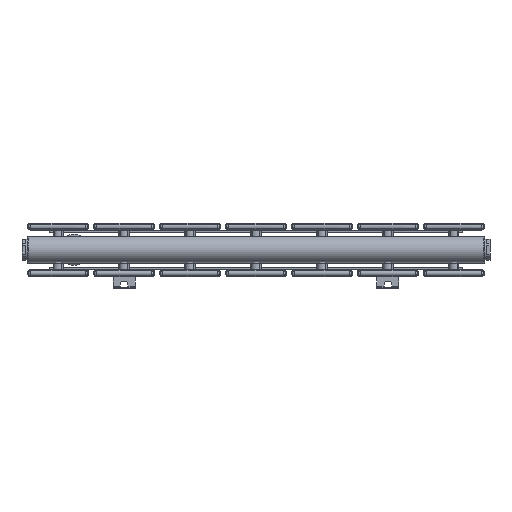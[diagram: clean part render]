
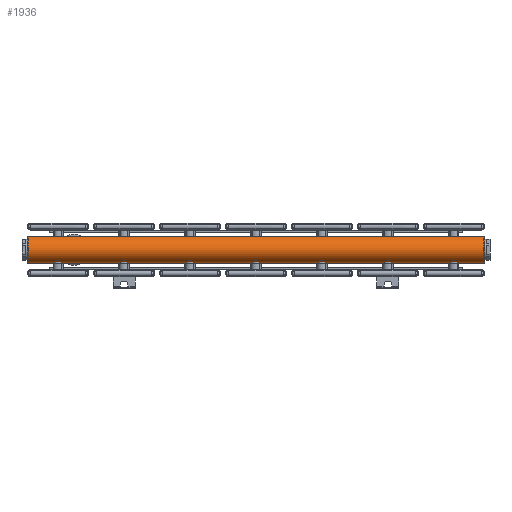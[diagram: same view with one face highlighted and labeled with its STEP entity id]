
A CAD part, left-side view. The second image highlights one B-rep face of the part: STEP entity #1936.
In plain terms, the highlighted cylindrical face has radius 15 mm (diameter 30 mm), a full revolution.
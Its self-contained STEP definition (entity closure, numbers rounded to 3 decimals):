
#642=FACE_BOUND('',#865,.T.);
#737=FACE_OUTER_BOUND('',#864,.T.);
#864=EDGE_LOOP('',(#1720));
#865=EDGE_LOOP('',(#1721));
#968=CIRCLE('',#2177,15.);
#969=CIRCLE('',#2179,15.);
#1106=VERTEX_POINT('',#3696);
#1107=VERTEX_POINT('',#3699);
#1320=EDGE_CURVE('',#1106,#1106,#968,.T.);
#1321=EDGE_CURVE('',#1107,#1107,#969,.T.);
#1720=ORIENTED_EDGE('',*,*,#1320,.F.);
#1721=ORIENTED_EDGE('',*,*,#1321,.F.);
#1851=CYLINDRICAL_SURFACE('',#2180,15.);
#1936=ADVANCED_FACE('',(#737,#642),#1851,.T.);
#2177=AXIS2_PLACEMENT_3D('',#3697,#2684,#2685);
#2179=AXIS2_PLACEMENT_3D('',#3700,#2688,#2689);
#2180=AXIS2_PLACEMENT_3D('',#3701,#2690,#2691);
#2684=DIRECTION('center_axis',(0.,0.,1.));
#2685=DIRECTION('ref_axis',(-1.,0.,0.));
#2688=DIRECTION('center_axis',(0.,0.,-1.));
#2689=DIRECTION('ref_axis',(-1.,0.,0.));
#2690=DIRECTION('center_axis',(0.,0.,1.));
#2691=DIRECTION('ref_axis',(-1.,0.,0.));
#3696=CARTESIAN_POINT('',(15.,-15.,520.));
#3697=CARTESIAN_POINT('Origin',(0.,-15.,520.));
#3699=CARTESIAN_POINT('',(15.,-15.,0.));
#3700=CARTESIAN_POINT('Origin',(0.,-15.,0.));
#3701=CARTESIAN_POINT('Origin',(0.,-15.,0.));
